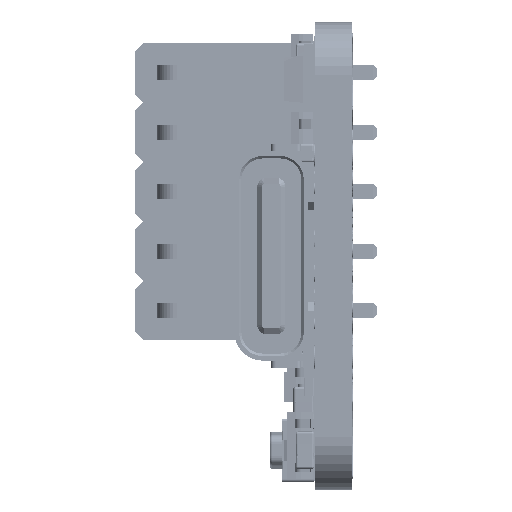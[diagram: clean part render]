
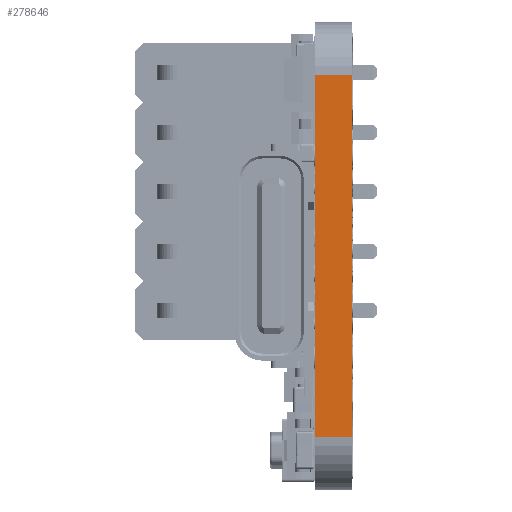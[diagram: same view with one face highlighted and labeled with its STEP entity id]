
A CAD part, left-side view. The second image highlights one B-rep face of the part: STEP entity #278646.
In plain terms, the highlighted planar face has unit normal (-1, 0, 0).
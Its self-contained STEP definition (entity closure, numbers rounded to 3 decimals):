
#16146 = LINE ( 'NONE', #23647, #16232 ) ;
#16197 = LINE ( 'NONE', #23714, #16202 ) ;
#16202 = VECTOR ( 'NONE', #23685, 1000. ) ;
#16232 = VECTOR ( 'NONE', #23655, 1000. ) ;
#21296 = AXIS2_PLACEMENT_3D ( 'NONE', #45770, #45733, #45702 ) ;
#23647 = CARTESIAN_POINT ( 'NONE',  ( 100., -1.6, -102.25 ) ) ;
#23655 = DIRECTION ( 'NONE',  ( 0., 1., 0. ) ) ;
#23685 = DIRECTION ( 'NONE',  ( 0., 1., 0. ) ) ;
#23714 = CARTESIAN_POINT ( 'NONE',  ( 100., -1.6, -117.75 ) ) ;
#40990 = FACE_OUTER_BOUND ( 'NONE', #177963, .T. ) ;
#45702 = DIRECTION ( 'NONE',  ( 0., 0., 1. ) ) ;
#45722 = PLANE ( 'NONE',  #21296 ) ;
#45733 = DIRECTION ( 'NONE',  ( -1., 0., 0. ) ) ;
#45770 = CARTESIAN_POINT ( 'NONE',  ( 100., -1.6, -102.25 ) ) ;
#47645 = EDGE_CURVE ( 'NONE', #199833, #199781, #274499, .T. ) ;
#67428 = EDGE_CURVE ( 'NONE', #199781, #114373, #16146, .T. ) ;
#67429 = EDGE_CURVE ( 'NONE', #199833, #114443, #16197, .T. ) ;
#75986 = ORIENTED_EDGE ( 'NONE', *, *, #47645, .T. ) ;
#76022 = ORIENTED_EDGE ( 'NONE', *, *, #67429, .F. ) ;
#76071 = ORIENTED_EDGE ( 'NONE', *, *, #67428, .T. ) ;
#76277 = ORIENTED_EDGE ( 'NONE', *, *, #239051, .F. ) ;
#79838 = CARTESIAN_POINT ( 'NONE',  ( 100., 0., -117.75 ) ) ;
#79880 = CARTESIAN_POINT ( 'NONE',  ( 100., 0., -102.25 ) ) ;
#111575 = DIRECTION ( 'NONE',  ( 0., 0., 1. ) ) ;
#111658 = CARTESIAN_POINT ( 'NONE',  ( 100., 0., -102.25 ) ) ;
#114373 = VERTEX_POINT ( 'NONE', #79880 ) ;
#114443 = VERTEX_POINT ( 'NONE', #79838 ) ;
#117531 = VECTOR ( 'NONE', #111575, 1000. ) ;
#117641 = LINE ( 'NONE', #111658, #117531 ) ;
#172120 = CARTESIAN_POINT ( 'NONE',  ( 100., -1.6, -102.25 ) ) ;
#172138 = CARTESIAN_POINT ( 'NONE',  ( 100., -1.6, -117.75 ) ) ;
#177963 = EDGE_LOOP ( 'NONE', ( #76277, #76022, #75986, #76071 ) ) ;
#199781 = VERTEX_POINT ( 'NONE', #172120 ) ;
#199833 = VERTEX_POINT ( 'NONE', #172138 ) ;
#239051 = EDGE_CURVE ( 'NONE', #114443, #114373, #117641, .T. ) ;
#274466 = VECTOR ( 'NONE', #277407, 1000. ) ;
#274499 = LINE ( 'NONE', #277394, #274466 ) ;
#277394 = CARTESIAN_POINT ( 'NONE',  ( 100., -1.6, -102.25 ) ) ;
#277407 = DIRECTION ( 'NONE',  ( 0., 0., 1. ) ) ;
#278646 = ADVANCED_FACE ( 'NONE', ( #40990 ), #45722, .T. ) ;
